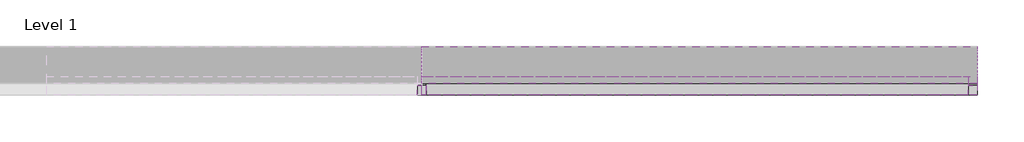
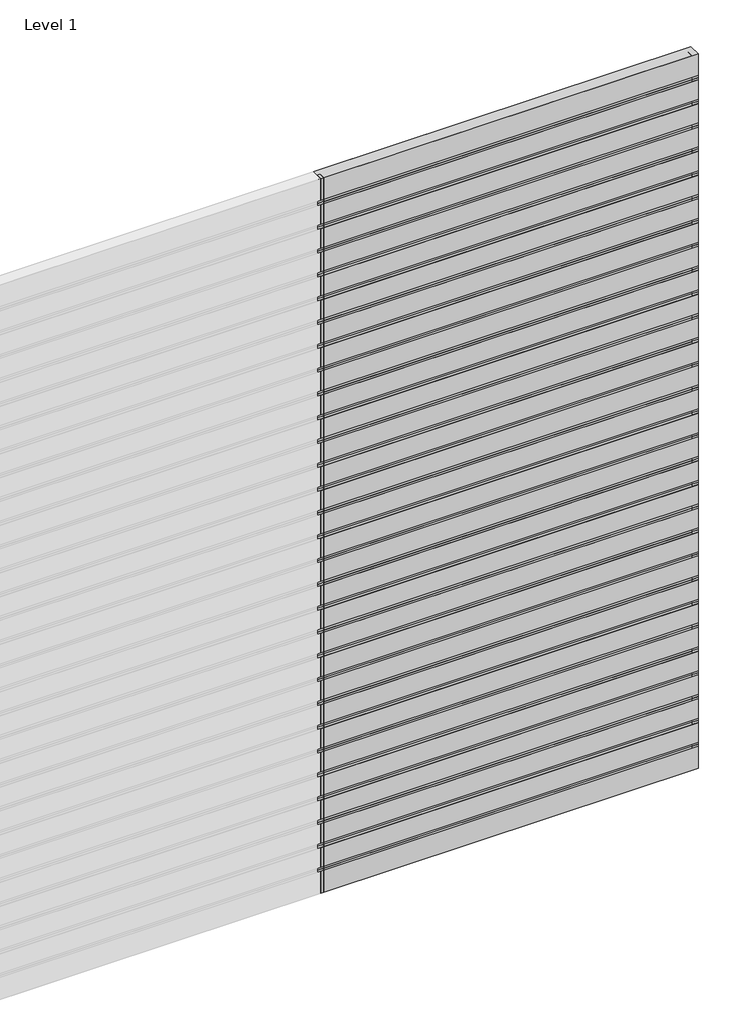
# One storey, part 2 of 2: 74 members, 60 plates.
"""IFC4 building model written with IfcOpenShell, lengths in millimetres."""

from ifc_helpers import new_model, si_unit, origin, place, context, project, spatial, transform, mapped, element, save
from components import rectangular_mullion_139a1767, rectangular_mullion_7d91d70c, rectangular_mullion_614df7cf, empty_system_panel_empty_0b604c90, empty_system_panel_empty_68612530, empty_system_panel_empty_34a2d59f

model = new_model("IFC4")

# Units and contexts
model_context = context("Model", 3, world=origin())
ifc_project = project(units=[si_unit("LENGTHUNIT", "METRE", prefix="MILLI")], contexts=[model_context])

# Site, building, storey
site = spatial("IfcSite", under=ifc_project)
building = spatial("IfcBuilding", under=site)
storey = spatial("IfcBuildingStorey", under=building, Name="Level 1", Elevation=0.0)

# Members
placement = place(None, origin())
rectangular_mullion_shape = rectangular_mullion_139a1767(model_context)
element("IfcMember", 1, ObjectType="Rectangular Mullion : RSen_21_CWM_blade - 200 ellips - 0°_gen_duco projects", at=placement, inside=storey, context=model_context, shape_type="MappedRepresentation", body=[
    mapped(rectangular_mullion_shape, transform((3000.0, 3000.0, 3200.0), x_axis=(0.0, 0.0, 1.0), y_axis=(0.0, 1.0, 0.0), z_axis=(-1.0, 0.0, 0.0))),
])
element("IfcMember", 2, ObjectType="Rectangular Mullion : RSen_21_CWM_blade - 200 ellips - 0°_gen_duco projects", at=placement, inside=storey, context=model_context, shape_type="MappedRepresentation", body=[
    mapped(rectangular_mullion_shape, transform((3000.0, 3000.0, 3400.0), x_axis=(0.0, 0.0, 1.0), y_axis=(0.0, 1.0, 0.0), z_axis=(-1.0, 0.0, 0.0))),
])
element("IfcMember", 3, ObjectType="Rectangular Mullion : RSen_21_CWM_blade - 200 ellips - 0°_gen_duco projects", at=placement, inside=storey, context=model_context, shape_type="MappedRepresentation", body=[
    mapped(rectangular_mullion_shape, transform((3000.0, 3000.0, 3600.0), x_axis=(0.0, 0.0, 1.0), y_axis=(0.0, 1.0, 0.0), z_axis=(-1.0, 0.0, 0.0))),
])
element("IfcMember", 4, ObjectType="Rectangular Mullion : RSen_21_CWM_blade - 200 ellips - 0°_gen_duco projects", at=placement, inside=storey, context=model_context, shape_type="MappedRepresentation", body=[
    mapped(rectangular_mullion_shape, transform((3000.0, 3000.0, 3800.0), x_axis=(0.0, 0.0, 1.0), y_axis=(0.0, 1.0, 0.0), z_axis=(-1.0, 0.0, 0.0))),
])
element("IfcMember", 5, ObjectType="Rectangular Mullion : RSen_21_CWM_blade - 200 ellips - 0°_gen_duco projects", at=placement, inside=storey, context=model_context, shape_type="MappedRepresentation", body=[
    mapped(rectangular_mullion_shape, transform((3000.0, 3000.0, 4000.0), x_axis=(0.0, 0.0, 1.0), y_axis=(0.0, 1.0, 0.0), z_axis=(-1.0, 0.0, 0.0))),
])
element("IfcMember", 6, ObjectType="Rectangular Mullion : RSen_21_CWM_blade - 200 ellips - 0°_gen_duco projects", at=placement, inside=storey, context=model_context, shape_type="MappedRepresentation", body=[
    mapped(rectangular_mullion_shape, transform((3000.0, 3000.0, 4200.0), x_axis=(0.0, 0.0, 1.0), y_axis=(0.0, 1.0, 0.0), z_axis=(-1.0, 0.0, 0.0))),
])
element("IfcMember", 7, ObjectType="Rectangular Mullion : RSen_21_CWM_blade - 200 ellips - 0°_gen_duco projects", at=placement, inside=storey, context=model_context, shape_type="MappedRepresentation", body=[
    mapped(rectangular_mullion_shape, transform((3000.0, 3000.0, 4400.0), x_axis=(0.0, 0.0, 1.0), y_axis=(0.0, 1.0, 0.0), z_axis=(-1.0, 0.0, 0.0))),
])
element("IfcMember", 8, ObjectType="Rectangular Mullion : RSen_21_CWM_blade - 200 ellips - 0°_gen_duco projects", at=placement, inside=storey, context=model_context, shape_type="MappedRepresentation", body=[
    mapped(rectangular_mullion_shape, transform((3000.0, 3000.0, 4600.0), x_axis=(0.0, 0.0, 1.0), y_axis=(0.0, 1.0, 0.0), z_axis=(-1.0, 0.0, 0.0))),
])
element("IfcMember", 9, ObjectType="Rectangular Mullion : RSen_21_CWM_blade - 200 ellips - 0°_gen_duco projects", at=placement, inside=storey, context=model_context, shape_type="MappedRepresentation", body=[
    mapped(rectangular_mullion_shape, transform((3000.0, 3000.0, 4800.0), x_axis=(0.0, 0.0, 1.0), y_axis=(0.0, 1.0, 0.0), z_axis=(-1.0, 0.0, 0.0))),
])
element("IfcMember", 10, ObjectType="Rectangular Mullion : RSen_21_CWM_blade - 200 ellips - 0°_gen_duco projects", at=placement, inside=storey, context=model_context, shape_type="MappedRepresentation", body=[
    mapped(rectangular_mullion_shape, transform((3000.0, 3000.0, 5000.0), x_axis=(0.0, 0.0, 1.0), y_axis=(0.0, 1.0, 0.0), z_axis=(-1.0, 0.0, 0.0))),
])
element("IfcMember", 11, ObjectType="Rectangular Mullion : RSen_21_CWM_blade - 200 ellips - 0°_gen_duco projects", at=placement, inside=storey, context=model_context, shape_type="MappedRepresentation", body=[
    mapped(rectangular_mullion_shape, transform((3000.0, 3000.0, 5200.0), x_axis=(0.0, 0.0, 1.0), y_axis=(0.0, 1.0, 0.0), z_axis=(-1.0, 0.0, 0.0))),
])
element("IfcMember", 12, ObjectType="Rectangular Mullion : RSen_21_CWM_blade - 200 ellips - 0°_gen_duco projects", at=placement, inside=storey, context=model_context, shape_type="MappedRepresentation", body=[
    mapped(rectangular_mullion_shape, transform((3000.0, 3000.0, 5400.0), x_axis=(0.0, 0.0, 1.0), y_axis=(0.0, 1.0, 0.0), z_axis=(-1.0, 0.0, 0.0))),
])
element("IfcMember", 13, ObjectType="Rectangular Mullion : RSen_21_CWM_blade - 200 ellips - 0°_gen_duco projects", at=placement, inside=storey, context=model_context, shape_type="MappedRepresentation", body=[
    mapped(rectangular_mullion_shape, transform((3000.0, 3000.0, 5600.0), x_axis=(0.0, 0.0, 1.0), y_axis=(0.0, 1.0, 0.0), z_axis=(-1.0, 0.0, 0.0))),
])
element("IfcMember", 14, ObjectType="Rectangular Mullion : RSen_21_CWM_blade - 200 ellips - 0°_gen_duco projects", at=placement, inside=storey, context=model_context, shape_type="MappedRepresentation", body=[
    mapped(rectangular_mullion_shape, transform((3000.0, 3000.0, 5800.0), x_axis=(0.0, 0.0, 1.0), y_axis=(0.0, 1.0, 0.0), z_axis=(-1.0, 0.0, 0.0))),
])
rectangular_mullion_2_shape = rectangular_mullion_7d91d70c(model_context)
element("IfcMember", 15, ObjectType="Rectangular Mullion : RSen_21_CWM_support profile 50x50_gen_duco projects", at=placement, inside=storey, context=model_context, shape_type="MappedRepresentation", body=[
    mapped(rectangular_mullion_2_shape, transform((3000.0, 3000.0, 0.0), x_axis=(-1.0, 0.0, 0.0), y_axis=(0.0, 1.0, 0.0), z_axis=(0.0, 0.0, -1.0))),
])
element("IfcMember", 16, ObjectType="Rectangular Mullion : RSen_21_CWM_support profile 50x50_gen_duco projects", at=placement, inside=storey, context=model_context, shape_type="MappedRepresentation", body=[
    mapped(rectangular_mullion_2_shape, transform((3000.0, 3000.0, 200.0), x_axis=(-1.0, 0.0, 0.0), y_axis=(0.0, 1.0, 0.0), z_axis=(0.0, 0.0, -1.0))),
])
element("IfcMember", 17, ObjectType="Rectangular Mullion : RSen_21_CWM_support profile 50x50_gen_duco projects", at=placement, inside=storey, context=model_context, shape_type="MappedRepresentation", body=[
    mapped(rectangular_mullion_2_shape, transform((3000.0, 3000.0, 400.0), x_axis=(-1.0, 0.0, 0.0), y_axis=(0.0, 1.0, 0.0), z_axis=(0.0, 0.0, -1.0))),
])
element("IfcMember", 18, ObjectType="Rectangular Mullion : RSen_21_CWM_support profile 50x50_gen_duco projects", at=placement, inside=storey, context=model_context, shape_type="MappedRepresentation", body=[
    mapped(rectangular_mullion_2_shape, transform((3000.0, 3000.0, 600.0), x_axis=(-1.0, 0.0, 0.0), y_axis=(0.0, 1.0, 0.0), z_axis=(0.0, 0.0, -1.0))),
])
element("IfcMember", 19, ObjectType="Rectangular Mullion : RSen_21_CWM_support profile 50x50_gen_duco projects", at=placement, inside=storey, context=model_context, shape_type="MappedRepresentation", body=[
    mapped(rectangular_mullion_2_shape, transform((3000.0, 3000.0, 800.0), x_axis=(-1.0, 0.0, 0.0), y_axis=(0.0, 1.0, 0.0), z_axis=(0.0, 0.0, -1.0))),
])
element("IfcMember", 20, ObjectType="Rectangular Mullion : RSen_21_CWM_support profile 50x50_gen_duco projects", at=placement, inside=storey, context=model_context, shape_type="MappedRepresentation", body=[
    mapped(rectangular_mullion_2_shape, transform((3000.0, 3000.0, 1000.0), x_axis=(-1.0, 0.0, 0.0), y_axis=(0.0, 1.0, 0.0), z_axis=(0.0, 0.0, -1.0))),
])
element("IfcMember", 21, ObjectType="Rectangular Mullion : RSen_21_CWM_support profile 50x50_gen_duco projects", at=placement, inside=storey, context=model_context, shape_type="MappedRepresentation", body=[
    mapped(rectangular_mullion_2_shape, transform((3000.0, 3000.0, 1200.0), x_axis=(-1.0, 0.0, 0.0), y_axis=(0.0, 1.0, 0.0), z_axis=(0.0, 0.0, -1.0))),
])
element("IfcMember", 22, ObjectType="Rectangular Mullion : RSen_21_CWM_support profile 50x50_gen_duco projects", at=placement, inside=storey, context=model_context, shape_type="MappedRepresentation", body=[
    mapped(rectangular_mullion_2_shape, transform((3000.0, 3000.0, 1400.0), x_axis=(-1.0, 0.0, 0.0), y_axis=(0.0, 1.0, 0.0), z_axis=(0.0, 0.0, -1.0))),
])
element("IfcMember", 23, ObjectType="Rectangular Mullion : RSen_21_CWM_support profile 50x50_gen_duco projects", at=placement, inside=storey, context=model_context, shape_type="MappedRepresentation", body=[
    mapped(rectangular_mullion_2_shape, transform((3000.0, 3000.0, 1600.0), x_axis=(-1.0, 0.0, 0.0), y_axis=(0.0, 1.0, 0.0), z_axis=(0.0, 0.0, -1.0))),
])
element("IfcMember", 24, ObjectType="Rectangular Mullion : RSen_21_CWM_support profile 50x50_gen_duco projects", at=placement, inside=storey, context=model_context, shape_type="MappedRepresentation", body=[
    mapped(rectangular_mullion_2_shape, transform((3000.0, 3000.0, 1800.0), x_axis=(-1.0, 0.0, 0.0), y_axis=(0.0, 1.0, 0.0), z_axis=(0.0, 0.0, -1.0))),
])
element("IfcMember", 25, ObjectType="Rectangular Mullion : RSen_21_CWM_support profile 50x50_gen_duco projects", at=placement, inside=storey, context=model_context, shape_type="MappedRepresentation", body=[
    mapped(rectangular_mullion_2_shape, transform((3000.0, 3000.0, 2000.0), x_axis=(-1.0, 0.0, 0.0), y_axis=(0.0, 1.0, 0.0), z_axis=(0.0, 0.0, -1.0))),
])
element("IfcMember", 26, ObjectType="Rectangular Mullion : RSen_21_CWM_support profile 50x50_gen_duco projects", at=placement, inside=storey, context=model_context, shape_type="MappedRepresentation", body=[
    mapped(rectangular_mullion_2_shape, transform((3000.0, 3000.0, 2200.0), x_axis=(-1.0, 0.0, 0.0), y_axis=(0.0, 1.0, 0.0), z_axis=(0.0, 0.0, -1.0))),
])
element("IfcMember", 27, ObjectType="Rectangular Mullion : RSen_21_CWM_support profile 50x50_gen_duco projects", at=placement, inside=storey, context=model_context, shape_type="MappedRepresentation", body=[
    mapped(rectangular_mullion_2_shape, transform((3000.0, 3000.0, 2400.0), x_axis=(-1.0, 0.0, 0.0), y_axis=(0.0, 1.0, 0.0), z_axis=(0.0, 0.0, -1.0))),
])
element("IfcMember", 28, ObjectType="Rectangular Mullion : RSen_21_CWM_support profile 50x50_gen_duco projects", at=placement, inside=storey, context=model_context, shape_type="MappedRepresentation", body=[
    mapped(rectangular_mullion_2_shape, transform((3000.0, 3000.0, 2600.0), x_axis=(-1.0, 0.0, 0.0), y_axis=(0.0, 1.0, 0.0), z_axis=(0.0, 0.0, -1.0))),
])
element("IfcMember", 29, ObjectType="Rectangular Mullion : RSen_21_CWM_support profile 50x50_gen_duco projects", at=placement, inside=storey, context=model_context, shape_type="MappedRepresentation", body=[
    mapped(rectangular_mullion_2_shape, transform((3000.0, 3000.0, 2800.0), x_axis=(-1.0, 0.0, 0.0), y_axis=(0.0, 1.0, 0.0), z_axis=(0.0, 0.0, -1.0))),
])
element("IfcMember", 30, ObjectType="Rectangular Mullion : RSen_21_CWM_support profile 50x50_gen_duco projects", at=placement, inside=storey, context=model_context, shape_type="MappedRepresentation", body=[
    mapped(rectangular_mullion_2_shape, transform((3000.0, 3000.0, 3000.0), x_axis=(-1.0, 0.0, 0.0), y_axis=(0.0, 1.0, 0.0), z_axis=(0.0, 0.0, -1.0))),
])
element("IfcMember", 31, ObjectType="Rectangular Mullion : RSen_21_CWM_support profile 50x50_gen_duco projects", at=placement, inside=storey, context=model_context, shape_type="MappedRepresentation", body=[
    mapped(rectangular_mullion_2_shape, transform((3000.0, 3000.0, 3200.0), x_axis=(-1.0, 0.0, 0.0), y_axis=(0.0, 1.0, 0.0), z_axis=(0.0, 0.0, -1.0))),
])
element("IfcMember", 32, ObjectType="Rectangular Mullion : RSen_21_CWM_support profile 50x50_gen_duco projects", at=placement, inside=storey, context=model_context, shape_type="MappedRepresentation", body=[
    mapped(rectangular_mullion_2_shape, transform((3000.0, 3000.0, 3400.0), x_axis=(-1.0, 0.0, 0.0), y_axis=(0.0, 1.0, 0.0), z_axis=(0.0, 0.0, -1.0))),
])
element("IfcMember", 33, ObjectType="Rectangular Mullion : RSen_21_CWM_support profile 50x50_gen_duco projects", at=placement, inside=storey, context=model_context, shape_type="MappedRepresentation", body=[
    mapped(rectangular_mullion_2_shape, transform((3000.0, 3000.0, 3600.0), x_axis=(-1.0, 0.0, 0.0), y_axis=(0.0, 1.0, 0.0), z_axis=(0.0, 0.0, -1.0))),
])
element("IfcMember", 34, ObjectType="Rectangular Mullion : RSen_21_CWM_support profile 50x50_gen_duco projects", at=placement, inside=storey, context=model_context, shape_type="MappedRepresentation", body=[
    mapped(rectangular_mullion_2_shape, transform((3000.0, 3000.0, 3800.0), x_axis=(-1.0, 0.0, 0.0), y_axis=(0.0, 1.0, 0.0), z_axis=(0.0, 0.0, -1.0))),
])
element("IfcMember", 35, ObjectType="Rectangular Mullion : RSen_21_CWM_support profile 50x50_gen_duco projects", at=placement, inside=storey, context=model_context, shape_type="MappedRepresentation", body=[
    mapped(rectangular_mullion_2_shape, transform((3000.0, 3000.0, 4000.0), x_axis=(-1.0, 0.0, 0.0), y_axis=(0.0, 1.0, 0.0), z_axis=(0.0, 0.0, -1.0))),
])
element("IfcMember", 36, ObjectType="Rectangular Mullion : RSen_21_CWM_support profile 50x50_gen_duco projects", at=placement, inside=storey, context=model_context, shape_type="MappedRepresentation", body=[
    mapped(rectangular_mullion_2_shape, transform((3000.0, 3000.0, 4200.0), x_axis=(-1.0, 0.0, 0.0), y_axis=(0.0, 1.0, 0.0), z_axis=(0.0, 0.0, -1.0))),
])
element("IfcMember", 37, ObjectType="Rectangular Mullion : RSen_21_CWM_support profile 50x50_gen_duco projects", at=placement, inside=storey, context=model_context, shape_type="MappedRepresentation", body=[
    mapped(rectangular_mullion_2_shape, transform((3000.0, 3000.0, 4400.0), x_axis=(-1.0, 0.0, 0.0), y_axis=(0.0, 1.0, 0.0), z_axis=(0.0, 0.0, -1.0))),
])
element("IfcMember", 38, ObjectType="Rectangular Mullion : RSen_21_CWM_support profile 50x50_gen_duco projects", at=placement, inside=storey, context=model_context, shape_type="MappedRepresentation", body=[
    mapped(rectangular_mullion_2_shape, transform((3000.0, 3000.0, 4600.0), x_axis=(-1.0, 0.0, 0.0), y_axis=(0.0, 1.0, 0.0), z_axis=(0.0, 0.0, -1.0))),
])
element("IfcMember", 39, ObjectType="Rectangular Mullion : RSen_21_CWM_support profile 50x50_gen_duco projects", at=placement, inside=storey, context=model_context, shape_type="MappedRepresentation", body=[
    mapped(rectangular_mullion_2_shape, transform((3000.0, 3000.0, 4800.0), x_axis=(-1.0, 0.0, 0.0), y_axis=(0.0, 1.0, 0.0), z_axis=(0.0, 0.0, -1.0))),
])
element("IfcMember", 40, ObjectType="Rectangular Mullion : RSen_21_CWM_support profile 50x50_gen_duco projects", at=placement, inside=storey, context=model_context, shape_type="MappedRepresentation", body=[
    mapped(rectangular_mullion_2_shape, transform((3000.0, 3000.0, 5000.0), x_axis=(-1.0, 0.0, 0.0), y_axis=(0.0, 1.0, 0.0), z_axis=(0.0, 0.0, -1.0))),
])
element("IfcMember", 41, ObjectType="Rectangular Mullion : RSen_21_CWM_support profile 50x50_gen_duco projects", at=placement, inside=storey, context=model_context, shape_type="MappedRepresentation", body=[
    mapped(rectangular_mullion_2_shape, transform((3000.0, 3000.0, 5200.0), x_axis=(-1.0, 0.0, 0.0), y_axis=(0.0, 1.0, 0.0), z_axis=(0.0, 0.0, -1.0))),
])
element("IfcMember", 42, ObjectType="Rectangular Mullion : RSen_21_CWM_support profile 50x50_gen_duco projects", at=placement, inside=storey, context=model_context, shape_type="MappedRepresentation", body=[
    mapped(rectangular_mullion_2_shape, transform((3000.0, 3000.0, 5400.0), x_axis=(-1.0, 0.0, 0.0), y_axis=(0.0, 1.0, 0.0), z_axis=(0.0, 0.0, -1.0))),
])
element("IfcMember", 43, ObjectType="Rectangular Mullion : RSen_21_CWM_support profile 50x50_gen_duco projects", at=placement, inside=storey, context=model_context, shape_type="MappedRepresentation", body=[
    mapped(rectangular_mullion_2_shape, transform((3000.0, 3000.0, 5600.0), x_axis=(-1.0, 0.0, 0.0), y_axis=(0.0, 1.0, 0.0), z_axis=(0.0, 0.0, -1.0))),
])
element("IfcMember", 44, ObjectType="Rectangular Mullion : RSen_21_CWM_support profile 50x50_gen_duco projects", at=placement, inside=storey, context=model_context, shape_type="MappedRepresentation", body=[
    mapped(rectangular_mullion_2_shape, transform((3000.0, 3000.0, 5800.0), x_axis=(-1.0, 0.0, 0.0), y_axis=(0.0, 1.0, 0.0), z_axis=(0.0, 0.0, -1.0))),
])
rectangular_mullion_3_shape = rectangular_mullion_614df7cf(model_context)
element("IfcMember", 45, ObjectType="Rectangular Mullion : RSen_21_CWM_support profile 50x50 - right_gen_duco projects", at=placement, inside=storey, context=model_context, shape_type="MappedRepresentation", body=[
    mapped(rectangular_mullion_3_shape, transform((6000.0, 3000.0, 6000.0), x_axis=(1.0, 0.0, 0.0), y_axis=(0.0, 1.0, 0.0), z_axis=(0.0, 0.0, 1.0))),
])
element("IfcMember", 46, ObjectType="Rectangular Mullion : RSen_21_CWM_support profile 50x50 - right_gen_duco projects", at=placement, inside=storey, context=model_context, shape_type="MappedRepresentation", body=[
    mapped(rectangular_mullion_3_shape, transform((6000.0, 3000.0, 200.0), x_axis=(1.0, 0.0, 0.0), y_axis=(0.0, 1.0, 0.0), z_axis=(0.0, 0.0, 1.0))),
])
element("IfcMember", 47, ObjectType="Rectangular Mullion : RSen_21_CWM_support profile 50x50 - right_gen_duco projects", at=placement, inside=storey, context=model_context, shape_type="MappedRepresentation", body=[
    mapped(rectangular_mullion_3_shape, transform((6000.0, 3000.0, 400.0), x_axis=(1.0, 0.0, 0.0), y_axis=(0.0, 1.0, 0.0), z_axis=(0.0, 0.0, 1.0))),
])
element("IfcMember", 48, ObjectType="Rectangular Mullion : RSen_21_CWM_support profile 50x50 - right_gen_duco projects", at=placement, inside=storey, context=model_context, shape_type="MappedRepresentation", body=[
    mapped(rectangular_mullion_3_shape, transform((6000.0, 3000.0, 600.0), x_axis=(1.0, 0.0, 0.0), y_axis=(0.0, 1.0, 0.0), z_axis=(0.0, 0.0, 1.0))),
])
element("IfcMember", 49, ObjectType="Rectangular Mullion : RSen_21_CWM_support profile 50x50 - right_gen_duco projects", at=placement, inside=storey, context=model_context, shape_type="MappedRepresentation", body=[
    mapped(rectangular_mullion_3_shape, transform((6000.0, 3000.0, 800.0), x_axis=(1.0, 0.0, 0.0), y_axis=(0.0, 1.0, 0.0), z_axis=(0.0, 0.0, 1.0))),
])
element("IfcMember", 50, ObjectType="Rectangular Mullion : RSen_21_CWM_support profile 50x50 - right_gen_duco projects", at=placement, inside=storey, context=model_context, shape_type="MappedRepresentation", body=[
    mapped(rectangular_mullion_3_shape, transform((6000.0, 3000.0, 1000.0), x_axis=(1.0, 0.0, 0.0), y_axis=(0.0, 1.0, 0.0), z_axis=(0.0, 0.0, 1.0))),
])
element("IfcMember", 51, ObjectType="Rectangular Mullion : RSen_21_CWM_support profile 50x50 - right_gen_duco projects", at=placement, inside=storey, context=model_context, shape_type="MappedRepresentation", body=[
    mapped(rectangular_mullion_3_shape, transform((6000.0, 3000.0, 1200.0), x_axis=(1.0, 0.0, 0.0), y_axis=(0.0, 1.0, 0.0), z_axis=(0.0, 0.0, 1.0))),
])
element("IfcMember", 52, ObjectType="Rectangular Mullion : RSen_21_CWM_support profile 50x50 - right_gen_duco projects", at=placement, inside=storey, context=model_context, shape_type="MappedRepresentation", body=[
    mapped(rectangular_mullion_3_shape, transform((6000.0, 3000.0, 1400.0), x_axis=(1.0, 0.0, 0.0), y_axis=(0.0, 1.0, 0.0), z_axis=(0.0, 0.0, 1.0))),
])
element("IfcMember", 53, ObjectType="Rectangular Mullion : RSen_21_CWM_support profile 50x50 - right_gen_duco projects", at=placement, inside=storey, context=model_context, shape_type="MappedRepresentation", body=[
    mapped(rectangular_mullion_3_shape, transform((6000.0, 3000.0, 1600.0), x_axis=(1.0, 0.0, 0.0), y_axis=(0.0, 1.0, 0.0), z_axis=(0.0, 0.0, 1.0))),
])
element("IfcMember", 54, ObjectType="Rectangular Mullion : RSen_21_CWM_support profile 50x50 - right_gen_duco projects", at=placement, inside=storey, context=model_context, shape_type="MappedRepresentation", body=[
    mapped(rectangular_mullion_3_shape, transform((6000.0, 3000.0, 1800.0), x_axis=(1.0, 0.0, 0.0), y_axis=(0.0, 1.0, 0.0), z_axis=(0.0, 0.0, 1.0))),
])
element("IfcMember", 55, ObjectType="Rectangular Mullion : RSen_21_CWM_support profile 50x50 - right_gen_duco projects", at=placement, inside=storey, context=model_context, shape_type="MappedRepresentation", body=[
    mapped(rectangular_mullion_3_shape, transform((6000.0, 3000.0, 2000.0), x_axis=(1.0, 0.0, 0.0), y_axis=(0.0, 1.0, 0.0), z_axis=(0.0, 0.0, 1.0))),
])
element("IfcMember", 56, ObjectType="Rectangular Mullion : RSen_21_CWM_support profile 50x50 - right_gen_duco projects", at=placement, inside=storey, context=model_context, shape_type="MappedRepresentation", body=[
    mapped(rectangular_mullion_3_shape, transform((6000.0, 3000.0, 2200.0), x_axis=(1.0, 0.0, 0.0), y_axis=(0.0, 1.0, 0.0), z_axis=(0.0, 0.0, 1.0))),
])
element("IfcMember", 57, ObjectType="Rectangular Mullion : RSen_21_CWM_support profile 50x50 - right_gen_duco projects", at=placement, inside=storey, context=model_context, shape_type="MappedRepresentation", body=[
    mapped(rectangular_mullion_3_shape, transform((6000.0, 3000.0, 2400.0), x_axis=(1.0, 0.0, 0.0), y_axis=(0.0, 1.0, 0.0), z_axis=(0.0, 0.0, 1.0))),
])
element("IfcMember", 58, ObjectType="Rectangular Mullion : RSen_21_CWM_support profile 50x50 - right_gen_duco projects", at=placement, inside=storey, context=model_context, shape_type="MappedRepresentation", body=[
    mapped(rectangular_mullion_3_shape, transform((6000.0, 3000.0, 2600.0), x_axis=(1.0, 0.0, 0.0), y_axis=(0.0, 1.0, 0.0), z_axis=(0.0, 0.0, 1.0))),
])
element("IfcMember", 59, ObjectType="Rectangular Mullion : RSen_21_CWM_support profile 50x50 - right_gen_duco projects", at=placement, inside=storey, context=model_context, shape_type="MappedRepresentation", body=[
    mapped(rectangular_mullion_3_shape, transform((6000.0, 3000.0, 2800.0), x_axis=(1.0, 0.0, 0.0), y_axis=(0.0, 1.0, 0.0), z_axis=(0.0, 0.0, 1.0))),
])
element("IfcMember", 60, ObjectType="Rectangular Mullion : RSen_21_CWM_support profile 50x50 - right_gen_duco projects", at=placement, inside=storey, context=model_context, shape_type="MappedRepresentation", body=[
    mapped(rectangular_mullion_3_shape, transform((6000.0, 3000.0, 3000.0), x_axis=(1.0, 0.0, 0.0), y_axis=(0.0, 1.0, 0.0), z_axis=(0.0, 0.0, 1.0))),
])
element("IfcMember", 61, ObjectType="Rectangular Mullion : RSen_21_CWM_support profile 50x50 - right_gen_duco projects", at=placement, inside=storey, context=model_context, shape_type="MappedRepresentation", body=[
    mapped(rectangular_mullion_3_shape, transform((6000.0, 3000.0, 3200.0), x_axis=(1.0, 0.0, 0.0), y_axis=(0.0, 1.0, 0.0), z_axis=(0.0, 0.0, 1.0))),
])
element("IfcMember", 62, ObjectType="Rectangular Mullion : RSen_21_CWM_support profile 50x50 - right_gen_duco projects", at=placement, inside=storey, context=model_context, shape_type="MappedRepresentation", body=[
    mapped(rectangular_mullion_3_shape, transform((6000.0, 3000.0, 3400.0), x_axis=(1.0, 0.0, 0.0), y_axis=(0.0, 1.0, 0.0), z_axis=(0.0, 0.0, 1.0))),
])
element("IfcMember", 63, ObjectType="Rectangular Mullion : RSen_21_CWM_support profile 50x50 - right_gen_duco projects", at=placement, inside=storey, context=model_context, shape_type="MappedRepresentation", body=[
    mapped(rectangular_mullion_3_shape, transform((6000.0, 3000.0, 3600.0), x_axis=(1.0, 0.0, 0.0), y_axis=(0.0, 1.0, 0.0), z_axis=(0.0, 0.0, 1.0))),
])
element("IfcMember", 64, ObjectType="Rectangular Mullion : RSen_21_CWM_support profile 50x50 - right_gen_duco projects", at=placement, inside=storey, context=model_context, shape_type="MappedRepresentation", body=[
    mapped(rectangular_mullion_3_shape, transform((6000.0, 3000.0, 3800.0), x_axis=(1.0, 0.0, 0.0), y_axis=(0.0, 1.0, 0.0), z_axis=(0.0, 0.0, 1.0))),
])
element("IfcMember", 65, ObjectType="Rectangular Mullion : RSen_21_CWM_support profile 50x50 - right_gen_duco projects", at=placement, inside=storey, context=model_context, shape_type="MappedRepresentation", body=[
    mapped(rectangular_mullion_3_shape, transform((6000.0, 3000.0, 4000.0), x_axis=(1.0, 0.0, 0.0), y_axis=(0.0, 1.0, 0.0), z_axis=(0.0, 0.0, 1.0))),
])
element("IfcMember", 66, ObjectType="Rectangular Mullion : RSen_21_CWM_support profile 50x50 - right_gen_duco projects", at=placement, inside=storey, context=model_context, shape_type="MappedRepresentation", body=[
    mapped(rectangular_mullion_3_shape, transform((6000.0, 3000.0, 4200.0), x_axis=(1.0, 0.0, 0.0), y_axis=(0.0, 1.0, 0.0), z_axis=(0.0, 0.0, 1.0))),
])
element("IfcMember", 67, ObjectType="Rectangular Mullion : RSen_21_CWM_support profile 50x50 - right_gen_duco projects", at=placement, inside=storey, context=model_context, shape_type="MappedRepresentation", body=[
    mapped(rectangular_mullion_3_shape, transform((6000.0, 3000.0, 4400.0), x_axis=(1.0, 0.0, 0.0), y_axis=(0.0, 1.0, 0.0), z_axis=(0.0, 0.0, 1.0))),
])
element("IfcMember", 68, ObjectType="Rectangular Mullion : RSen_21_CWM_support profile 50x50 - right_gen_duco projects", at=placement, inside=storey, context=model_context, shape_type="MappedRepresentation", body=[
    mapped(rectangular_mullion_3_shape, transform((6000.0, 3000.0, 4600.0), x_axis=(1.0, 0.0, 0.0), y_axis=(0.0, 1.0, 0.0), z_axis=(0.0, 0.0, 1.0))),
])
element("IfcMember", 69, ObjectType="Rectangular Mullion : RSen_21_CWM_support profile 50x50 - right_gen_duco projects", at=placement, inside=storey, context=model_context, shape_type="MappedRepresentation", body=[
    mapped(rectangular_mullion_3_shape, transform((6000.0, 3000.0, 4800.0), x_axis=(1.0, 0.0, 0.0), y_axis=(0.0, 1.0, 0.0), z_axis=(0.0, 0.0, 1.0))),
])
element("IfcMember", 70, ObjectType="Rectangular Mullion : RSen_21_CWM_support profile 50x50 - right_gen_duco projects", at=placement, inside=storey, context=model_context, shape_type="MappedRepresentation", body=[
    mapped(rectangular_mullion_3_shape, transform((6000.0, 3000.0, 5000.0), x_axis=(1.0, 0.0, 0.0), y_axis=(0.0, 1.0, 0.0), z_axis=(0.0, 0.0, 1.0))),
])
element("IfcMember", 71, ObjectType="Rectangular Mullion : RSen_21_CWM_support profile 50x50 - right_gen_duco projects", at=placement, inside=storey, context=model_context, shape_type="MappedRepresentation", body=[
    mapped(rectangular_mullion_3_shape, transform((6000.0, 3000.0, 5200.0), x_axis=(1.0, 0.0, 0.0), y_axis=(0.0, 1.0, 0.0), z_axis=(0.0, 0.0, 1.0))),
])
element("IfcMember", 72, ObjectType="Rectangular Mullion : RSen_21_CWM_support profile 50x50 - right_gen_duco projects", at=placement, inside=storey, context=model_context, shape_type="MappedRepresentation", body=[
    mapped(rectangular_mullion_3_shape, transform((6000.0, 3000.0, 5400.0), x_axis=(1.0, 0.0, 0.0), y_axis=(0.0, 1.0, 0.0), z_axis=(0.0, 0.0, 1.0))),
])
element("IfcMember", 73, ObjectType="Rectangular Mullion : RSen_21_CWM_support profile 50x50 - right_gen_duco projects", at=placement, inside=storey, context=model_context, shape_type="MappedRepresentation", body=[
    mapped(rectangular_mullion_3_shape, transform((6000.0, 3000.0, 5600.0), x_axis=(1.0, 0.0, 0.0), y_axis=(0.0, 1.0, 0.0), z_axis=(0.0, 0.0, 1.0))),
])
element("IfcMember", 74, ObjectType="Rectangular Mullion : RSen_21_CWM_support profile 50x50 - right_gen_duco projects", at=placement, inside=storey, context=model_context, shape_type="MappedRepresentation", body=[
    mapped(rectangular_mullion_3_shape, transform((6000.0, 3000.0, 5800.0), x_axis=(1.0, 0.0, 0.0), y_axis=(0.0, 1.0, 0.0), z_axis=(0.0, 0.0, 1.0))),
])

# Plates
empty_system_panel_empty_shape = empty_system_panel_empty_0b604c90(model_context)
element("IfcPlate", 75, ObjectType="Empty System Panel : Empty", at=placement, inside=storey, context=model_context, shape_type="MappedRepresentation", body=[
    mapped(empty_system_panel_empty_shape, transform((4500.0, 3000.0, 0.0), x_axis=(-1.0, 0.0, 0.0), y_axis=(0.0, -1.0, 0.0), z_axis=(0.0, 0.0, 1.0))),
])
element("IfcPlate", 76, ObjectType="Empty System Panel : Empty", at=placement, inside=storey, context=model_context, shape_type="MappedRepresentation", body=[
    mapped(empty_system_panel_empty_shape, transform((4500.0, 3000.0, 5818.5), x_axis=(-1.0, 0.0, 0.0), y_axis=(0.0, -1.0, 0.0), z_axis=(0.0, 0.0, 1.0))),
])
empty_system_panel_empty_2_shape = empty_system_panel_empty_68612530(model_context)
element("IfcPlate", 77, ObjectType="Empty System Panel : Empty", at=placement, inside=storey, context=model_context, shape_type="MappedRepresentation", body=[
    mapped(empty_system_panel_empty_2_shape, transform((4500.0, 3000.0, 218.5), x_axis=(-1.0, 0.0, 0.0), y_axis=(0.0, -1.0, 0.0), z_axis=(0.0, 0.0, 1.0))),
])
element("IfcPlate", 78, ObjectType="Empty System Panel : Empty", at=placement, inside=storey, context=model_context, shape_type="MappedRepresentation", body=[
    mapped(empty_system_panel_empty_2_shape, transform((4500.0, 3000.0, 418.5), x_axis=(-1.0, 0.0, 0.0), y_axis=(0.0, -1.0, 0.0), z_axis=(0.0, 0.0, 1.0))),
])
element("IfcPlate", 79, ObjectType="Empty System Panel : Empty", at=placement, inside=storey, context=model_context, shape_type="MappedRepresentation", body=[
    mapped(empty_system_panel_empty_2_shape, transform((4500.0, 3000.0, 618.5), x_axis=(-1.0, 0.0, 0.0), y_axis=(0.0, -1.0, 0.0), z_axis=(0.0, 0.0, 1.0))),
])
element("IfcPlate", 80, ObjectType="Empty System Panel : Empty", at=placement, inside=storey, context=model_context, shape_type="MappedRepresentation", body=[
    mapped(empty_system_panel_empty_2_shape, transform((4500.0, 3000.0, 818.5), x_axis=(-1.0, 0.0, 0.0), y_axis=(0.0, -1.0, 0.0), z_axis=(0.0, 0.0, 1.0))),
])
element("IfcPlate", 81, ObjectType="Empty System Panel : Empty", at=placement, inside=storey, context=model_context, shape_type="MappedRepresentation", body=[
    mapped(empty_system_panel_empty_2_shape, transform((4500.0, 3000.0, 1018.5), x_axis=(-1.0, 0.0, 0.0), y_axis=(0.0, -1.0, 0.0), z_axis=(0.0, 0.0, 1.0))),
])
element("IfcPlate", 82, ObjectType="Empty System Panel : Empty", at=placement, inside=storey, context=model_context, shape_type="MappedRepresentation", body=[
    mapped(empty_system_panel_empty_2_shape, transform((4500.0, 3000.0, 1218.5), x_axis=(-1.0, 0.0, 0.0), y_axis=(0.0, -1.0, 0.0), z_axis=(0.0, 0.0, 1.0))),
])
element("IfcPlate", 83, ObjectType="Empty System Panel : Empty", at=placement, inside=storey, context=model_context, shape_type="MappedRepresentation", body=[
    mapped(empty_system_panel_empty_2_shape, transform((4500.0, 3000.0, 1418.5), x_axis=(-1.0, 0.0, 0.0), y_axis=(0.0, -1.0, 0.0), z_axis=(0.0, 0.0, 1.0))),
])
element("IfcPlate", 84, ObjectType="Empty System Panel : Empty", at=placement, inside=storey, context=model_context, shape_type="MappedRepresentation", body=[
    mapped(empty_system_panel_empty_2_shape, transform((4500.0, 3000.0, 1618.5), x_axis=(-1.0, 0.0, 0.0), y_axis=(0.0, -1.0, 0.0), z_axis=(0.0, 0.0, 1.0))),
])
element("IfcPlate", 85, ObjectType="Empty System Panel : Empty", at=placement, inside=storey, context=model_context, shape_type="MappedRepresentation", body=[
    mapped(empty_system_panel_empty_2_shape, transform((4500.0, 3000.0, 1818.5), x_axis=(-1.0, 0.0, 0.0), y_axis=(0.0, -1.0, 0.0), z_axis=(0.0, 0.0, 1.0))),
])
element("IfcPlate", 86, ObjectType="Empty System Panel : Empty", at=placement, inside=storey, context=model_context, shape_type="MappedRepresentation", body=[
    mapped(empty_system_panel_empty_2_shape, transform((4500.0, 3000.0, 2018.5), x_axis=(-1.0, 0.0, 0.0), y_axis=(0.0, -1.0, 0.0), z_axis=(0.0, 0.0, 1.0))),
])
element("IfcPlate", 87, ObjectType="Empty System Panel : Empty", at=placement, inside=storey, context=model_context, shape_type="MappedRepresentation", body=[
    mapped(empty_system_panel_empty_2_shape, transform((4500.0, 3000.0, 2218.5), x_axis=(-1.0, 0.0, 0.0), y_axis=(0.0, -1.0, 0.0), z_axis=(0.0, 0.0, 1.0))),
])
element("IfcPlate", 88, ObjectType="Empty System Panel : Empty", at=placement, inside=storey, context=model_context, shape_type="MappedRepresentation", body=[
    mapped(empty_system_panel_empty_2_shape, transform((4500.0, 3000.0, 2418.5), x_axis=(-1.0, 0.0, 0.0), y_axis=(0.0, -1.0, 0.0), z_axis=(0.0, 0.0, 1.0))),
])
element("IfcPlate", 89, ObjectType="Empty System Panel : Empty", at=placement, inside=storey, context=model_context, shape_type="MappedRepresentation", body=[
    mapped(empty_system_panel_empty_2_shape, transform((4500.0, 3000.0, 2618.5), x_axis=(-1.0, 0.0, 0.0), y_axis=(0.0, -1.0, 0.0), z_axis=(0.0, 0.0, 1.0))),
])
element("IfcPlate", 90, ObjectType="Empty System Panel : Empty", at=placement, inside=storey, context=model_context, shape_type="MappedRepresentation", body=[
    mapped(empty_system_panel_empty_2_shape, transform((4500.0, 3000.0, 2818.5), x_axis=(-1.0, 0.0, 0.0), y_axis=(0.0, -1.0, 0.0), z_axis=(0.0, 0.0, 1.0))),
])
element("IfcPlate", 91, ObjectType="Empty System Panel : Empty", at=placement, inside=storey, context=model_context, shape_type="MappedRepresentation", body=[
    mapped(empty_system_panel_empty_2_shape, transform((4500.0, 3000.0, 3018.5), x_axis=(-1.0, 0.0, 0.0), y_axis=(0.0, -1.0, 0.0), z_axis=(0.0, 0.0, 1.0))),
])
element("IfcPlate", 92, ObjectType="Empty System Panel : Empty", at=placement, inside=storey, context=model_context, shape_type="MappedRepresentation", body=[
    mapped(empty_system_panel_empty_2_shape, transform((4500.0, 3000.0, 3218.5), x_axis=(-1.0, 0.0, 0.0), y_axis=(0.0, -1.0, 0.0), z_axis=(0.0, 0.0, 1.0))),
])
element("IfcPlate", 93, ObjectType="Empty System Panel : Empty", at=placement, inside=storey, context=model_context, shape_type="MappedRepresentation", body=[
    mapped(empty_system_panel_empty_2_shape, transform((4500.0, 3000.0, 3418.5), x_axis=(-1.0, 0.0, 0.0), y_axis=(0.0, -1.0, 0.0), z_axis=(0.0, 0.0, 1.0))),
])
element("IfcPlate", 94, ObjectType="Empty System Panel : Empty", at=placement, inside=storey, context=model_context, shape_type="MappedRepresentation", body=[
    mapped(empty_system_panel_empty_2_shape, transform((4500.0, 3000.0, 3618.5), x_axis=(-1.0, 0.0, 0.0), y_axis=(0.0, -1.0, 0.0), z_axis=(0.0, 0.0, 1.0))),
])
element("IfcPlate", 95, ObjectType="Empty System Panel : Empty", at=placement, inside=storey, context=model_context, shape_type="MappedRepresentation", body=[
    mapped(empty_system_panel_empty_2_shape, transform((4500.0, 3000.0, 3818.5), x_axis=(-1.0, 0.0, 0.0), y_axis=(0.0, -1.0, 0.0), z_axis=(0.0, 0.0, 1.0))),
])
element("IfcPlate", 96, ObjectType="Empty System Panel : Empty", at=placement, inside=storey, context=model_context, shape_type="MappedRepresentation", body=[
    mapped(empty_system_panel_empty_2_shape, transform((4500.0, 3000.0, 4018.5), x_axis=(-1.0, 0.0, 0.0), y_axis=(0.0, -1.0, 0.0), z_axis=(0.0, 0.0, 1.0))),
])
element("IfcPlate", 97, ObjectType="Empty System Panel : Empty", at=placement, inside=storey, context=model_context, shape_type="MappedRepresentation", body=[
    mapped(empty_system_panel_empty_2_shape, transform((4500.0, 3000.0, 4218.5), x_axis=(-1.0, 0.0, 0.0), y_axis=(0.0, -1.0, 0.0), z_axis=(0.0, 0.0, 1.0))),
])
element("IfcPlate", 98, ObjectType="Empty System Panel : Empty", at=placement, inside=storey, context=model_context, shape_type="MappedRepresentation", body=[
    mapped(empty_system_panel_empty_2_shape, transform((4500.0, 3000.0, 4418.5), x_axis=(-1.0, 0.0, 0.0), y_axis=(0.0, -1.0, 0.0), z_axis=(0.0, 0.0, 1.0))),
])
element("IfcPlate", 99, ObjectType="Empty System Panel : Empty", at=placement, inside=storey, context=model_context, shape_type="MappedRepresentation", body=[
    mapped(empty_system_panel_empty_2_shape, transform((4500.0, 3000.0, 4618.5), x_axis=(-1.0, 0.0, 0.0), y_axis=(0.0, -1.0, 0.0), z_axis=(0.0, 0.0, 1.0))),
])
element("IfcPlate", 100, ObjectType="Empty System Panel : Empty", at=placement, inside=storey, context=model_context, shape_type="MappedRepresentation", body=[
    mapped(empty_system_panel_empty_2_shape, transform((4500.0, 3000.0, 4818.5), x_axis=(-1.0, 0.0, 0.0), y_axis=(0.0, -1.0, 0.0), z_axis=(0.0, 0.0, 1.0))),
])
element("IfcPlate", 101, ObjectType="Empty System Panel : Empty", at=placement, inside=storey, context=model_context, shape_type="MappedRepresentation", body=[
    mapped(empty_system_panel_empty_2_shape, transform((4500.0, 3000.0, 5018.5), x_axis=(-1.0, 0.0, 0.0), y_axis=(0.0, -1.0, 0.0), z_axis=(0.0, 0.0, 1.0))),
])
element("IfcPlate", 102, ObjectType="Empty System Panel : Empty", at=placement, inside=storey, context=model_context, shape_type="MappedRepresentation", body=[
    mapped(empty_system_panel_empty_2_shape, transform((4500.0, 3000.0, 5218.5), x_axis=(-1.0, 0.0, 0.0), y_axis=(0.0, -1.0, 0.0), z_axis=(0.0, 0.0, 1.0))),
])
element("IfcPlate", 103, ObjectType="Empty System Panel : Empty", at=placement, inside=storey, context=model_context, shape_type="MappedRepresentation", body=[
    mapped(empty_system_panel_empty_2_shape, transform((4500.0, 3000.0, 5418.5), x_axis=(-1.0, 0.0, 0.0), y_axis=(0.0, -1.0, 0.0), z_axis=(0.0, 0.0, 1.0))),
])
element("IfcPlate", 104, ObjectType="Empty System Panel : Empty", at=placement, inside=storey, context=model_context, shape_type="MappedRepresentation", body=[
    mapped(empty_system_panel_empty_2_shape, transform((4500.0, 3000.0, 5618.5), x_axis=(-1.0, 0.0, 0.0), y_axis=(0.0, -1.0, 0.0), z_axis=(0.0, 0.0, 1.0))),
])
empty_system_panel_empty_3_shape = empty_system_panel_empty_34a2d59f(model_context)
element("IfcPlate", 105, ObjectType="Empty System Panel : Empty", at=placement, inside=storey, context=model_context, shape_type="MappedRepresentation", body=[
    mapped(empty_system_panel_empty_3_shape, transform((4487.5, 3000.0, 0.0), x_axis=(-1.0, 0.0, 0.0), y_axis=(0.0, -1.0, 0.0), z_axis=(0.0, 0.0, 1.0))),
])
element("IfcPlate", 106, ObjectType="Empty System Panel : Empty", at=placement, inside=storey, context=model_context, shape_type="MappedRepresentation", body=[
    mapped(empty_system_panel_empty_3_shape, transform((4487.5, 3000.0, 200.0), x_axis=(-1.0, 0.0, 0.0), y_axis=(0.0, -1.0, 0.0), z_axis=(0.0, 0.0, 1.0))),
])
element("IfcPlate", 107, ObjectType="Empty System Panel : Empty", at=placement, inside=storey, context=model_context, shape_type="MappedRepresentation", body=[
    mapped(empty_system_panel_empty_3_shape, transform((4487.5, 3000.0, 400.0), x_axis=(-1.0, 0.0, 0.0), y_axis=(0.0, -1.0, 0.0), z_axis=(0.0, 0.0, 1.0))),
])
element("IfcPlate", 108, ObjectType="Empty System Panel : Empty", at=placement, inside=storey, context=model_context, shape_type="MappedRepresentation", body=[
    mapped(empty_system_panel_empty_3_shape, transform((4487.5, 3000.0, 600.0), x_axis=(-1.0, 0.0, 0.0), y_axis=(0.0, -1.0, 0.0), z_axis=(0.0, 0.0, 1.0))),
])
element("IfcPlate", 109, ObjectType="Empty System Panel : Empty", at=placement, inside=storey, context=model_context, shape_type="MappedRepresentation", body=[
    mapped(empty_system_panel_empty_3_shape, transform((4487.5, 3000.0, 800.0), x_axis=(-1.0, 0.0, 0.0), y_axis=(0.0, -1.0, 0.0), z_axis=(0.0, 0.0, 1.0))),
])
element("IfcPlate", 110, ObjectType="Empty System Panel : Empty", at=placement, inside=storey, context=model_context, shape_type="MappedRepresentation", body=[
    mapped(empty_system_panel_empty_3_shape, transform((4487.5, 3000.0, 1000.0), x_axis=(-1.0, 0.0, 0.0), y_axis=(0.0, -1.0, 0.0), z_axis=(0.0, 0.0, 1.0))),
])
element("IfcPlate", 111, ObjectType="Empty System Panel : Empty", at=placement, inside=storey, context=model_context, shape_type="MappedRepresentation", body=[
    mapped(empty_system_panel_empty_3_shape, transform((4487.5, 3000.0, 1200.0), x_axis=(-1.0, 0.0, 0.0), y_axis=(0.0, -1.0, 0.0), z_axis=(0.0, 0.0, 1.0))),
])
element("IfcPlate", 112, ObjectType="Empty System Panel : Empty", at=placement, inside=storey, context=model_context, shape_type="MappedRepresentation", body=[
    mapped(empty_system_panel_empty_3_shape, transform((4487.5, 3000.0, 1400.0), x_axis=(-1.0, 0.0, 0.0), y_axis=(0.0, -1.0, 0.0), z_axis=(0.0, 0.0, 1.0))),
])
element("IfcPlate", 113, ObjectType="Empty System Panel : Empty", at=placement, inside=storey, context=model_context, shape_type="MappedRepresentation", body=[
    mapped(empty_system_panel_empty_3_shape, transform((4487.5, 3000.0, 1600.0), x_axis=(-1.0, 0.0, 0.0), y_axis=(0.0, -1.0, 0.0), z_axis=(0.0, 0.0, 1.0))),
])
element("IfcPlate", 114, ObjectType="Empty System Panel : Empty", at=placement, inside=storey, context=model_context, shape_type="MappedRepresentation", body=[
    mapped(empty_system_panel_empty_3_shape, transform((4487.5, 3000.0, 1800.0), x_axis=(-1.0, 0.0, 0.0), y_axis=(0.0, -1.0, 0.0), z_axis=(0.0, 0.0, 1.0))),
])
element("IfcPlate", 115, ObjectType="Empty System Panel : Empty", at=placement, inside=storey, context=model_context, shape_type="MappedRepresentation", body=[
    mapped(empty_system_panel_empty_3_shape, transform((4487.5, 3000.0, 2000.0), x_axis=(-1.0, 0.0, 0.0), y_axis=(0.0, -1.0, 0.0), z_axis=(0.0, 0.0, 1.0))),
])
element("IfcPlate", 116, ObjectType="Empty System Panel : Empty", at=placement, inside=storey, context=model_context, shape_type="MappedRepresentation", body=[
    mapped(empty_system_panel_empty_3_shape, transform((4487.5, 3000.0, 2200.0), x_axis=(-1.0, 0.0, 0.0), y_axis=(0.0, -1.0, 0.0), z_axis=(0.0, 0.0, 1.0))),
])
element("IfcPlate", 117, ObjectType="Empty System Panel : Empty", at=placement, inside=storey, context=model_context, shape_type="MappedRepresentation", body=[
    mapped(empty_system_panel_empty_3_shape, transform((4487.5, 3000.0, 2400.0), x_axis=(-1.0, 0.0, 0.0), y_axis=(0.0, -1.0, 0.0), z_axis=(0.0, 0.0, 1.0))),
])
element("IfcPlate", 118, ObjectType="Empty System Panel : Empty", at=placement, inside=storey, context=model_context, shape_type="MappedRepresentation", body=[
    mapped(empty_system_panel_empty_3_shape, transform((4487.5, 3000.0, 2600.0), x_axis=(-1.0, 0.0, 0.0), y_axis=(0.0, -1.0, 0.0), z_axis=(0.0, 0.0, 1.0))),
])
element("IfcPlate", 119, ObjectType="Empty System Panel : Empty", at=placement, inside=storey, context=model_context, shape_type="MappedRepresentation", body=[
    mapped(empty_system_panel_empty_3_shape, transform((4487.5, 3000.0, 2800.0), x_axis=(-1.0, 0.0, 0.0), y_axis=(0.0, -1.0, 0.0), z_axis=(0.0, 0.0, 1.0))),
])
element("IfcPlate", 120, ObjectType="Empty System Panel : Empty", at=placement, inside=storey, context=model_context, shape_type="MappedRepresentation", body=[
    mapped(empty_system_panel_empty_3_shape, transform((4487.5, 3000.0, 3000.0), x_axis=(-1.0, 0.0, 0.0), y_axis=(0.0, -1.0, 0.0), z_axis=(0.0, 0.0, 1.0))),
])
element("IfcPlate", 121, ObjectType="Empty System Panel : Empty", at=placement, inside=storey, context=model_context, shape_type="MappedRepresentation", body=[
    mapped(empty_system_panel_empty_3_shape, transform((4487.5, 3000.0, 3200.0), x_axis=(-1.0, 0.0, 0.0), y_axis=(0.0, -1.0, 0.0), z_axis=(0.0, 0.0, 1.0))),
])
element("IfcPlate", 122, ObjectType="Empty System Panel : Empty", at=placement, inside=storey, context=model_context, shape_type="MappedRepresentation", body=[
    mapped(empty_system_panel_empty_3_shape, transform((4487.5, 3000.0, 3400.0), x_axis=(-1.0, 0.0, 0.0), y_axis=(0.0, -1.0, 0.0), z_axis=(0.0, 0.0, 1.0))),
])
element("IfcPlate", 123, ObjectType="Empty System Panel : Empty", at=placement, inside=storey, context=model_context, shape_type="MappedRepresentation", body=[
    mapped(empty_system_panel_empty_3_shape, transform((4487.5, 3000.0, 3600.0), x_axis=(-1.0, 0.0, 0.0), y_axis=(0.0, -1.0, 0.0), z_axis=(0.0, 0.0, 1.0))),
])
element("IfcPlate", 124, ObjectType="Empty System Panel : Empty", at=placement, inside=storey, context=model_context, shape_type="MappedRepresentation", body=[
    mapped(empty_system_panel_empty_3_shape, transform((4487.5, 3000.0, 3800.0), x_axis=(-1.0, 0.0, 0.0), y_axis=(0.0, -1.0, 0.0), z_axis=(0.0, 0.0, 1.0))),
])
element("IfcPlate", 125, ObjectType="Empty System Panel : Empty", at=placement, inside=storey, context=model_context, shape_type="MappedRepresentation", body=[
    mapped(empty_system_panel_empty_3_shape, transform((4487.5, 3000.0, 4000.0), x_axis=(-1.0, 0.0, 0.0), y_axis=(0.0, -1.0, 0.0), z_axis=(0.0, 0.0, 1.0))),
])
element("IfcPlate", 126, ObjectType="Empty System Panel : Empty", at=placement, inside=storey, context=model_context, shape_type="MappedRepresentation", body=[
    mapped(empty_system_panel_empty_3_shape, transform((4487.5, 3000.0, 4200.0), x_axis=(-1.0, 0.0, 0.0), y_axis=(0.0, -1.0, 0.0), z_axis=(0.0, 0.0, 1.0))),
])
element("IfcPlate", 127, ObjectType="Empty System Panel : Empty", at=placement, inside=storey, context=model_context, shape_type="MappedRepresentation", body=[
    mapped(empty_system_panel_empty_3_shape, transform((4487.5, 3000.0, 4400.0), x_axis=(-1.0, 0.0, 0.0), y_axis=(0.0, -1.0, 0.0), z_axis=(0.0, 0.0, 1.0))),
])
element("IfcPlate", 128, ObjectType="Empty System Panel : Empty", at=placement, inside=storey, context=model_context, shape_type="MappedRepresentation", body=[
    mapped(empty_system_panel_empty_3_shape, transform((4487.5, 3000.0, 4600.0), x_axis=(-1.0, 0.0, 0.0), y_axis=(0.0, -1.0, 0.0), z_axis=(0.0, 0.0, 1.0))),
])
element("IfcPlate", 129, ObjectType="Empty System Panel : Empty", at=placement, inside=storey, context=model_context, shape_type="MappedRepresentation", body=[
    mapped(empty_system_panel_empty_3_shape, transform((4487.5, 3000.0, 4800.0), x_axis=(-1.0, 0.0, 0.0), y_axis=(0.0, -1.0, 0.0), z_axis=(0.0, 0.0, 1.0))),
])
element("IfcPlate", 130, ObjectType="Empty System Panel : Empty", at=placement, inside=storey, context=model_context, shape_type="MappedRepresentation", body=[
    mapped(empty_system_panel_empty_3_shape, transform((4487.5, 3000.0, 5000.0), x_axis=(-1.0, 0.0, 0.0), y_axis=(0.0, -1.0, 0.0), z_axis=(0.0, 0.0, 1.0))),
])
element("IfcPlate", 131, ObjectType="Empty System Panel : Empty", at=placement, inside=storey, context=model_context, shape_type="MappedRepresentation", body=[
    mapped(empty_system_panel_empty_3_shape, transform((4487.5, 3000.0, 5200.0), x_axis=(-1.0, 0.0, 0.0), y_axis=(0.0, -1.0, 0.0), z_axis=(0.0, 0.0, 1.0))),
])
element("IfcPlate", 132, ObjectType="Empty System Panel : Empty", at=placement, inside=storey, context=model_context, shape_type="MappedRepresentation", body=[
    mapped(empty_system_panel_empty_3_shape, transform((4487.5, 3000.0, 5400.0), x_axis=(-1.0, 0.0, 0.0), y_axis=(0.0, -1.0, 0.0), z_axis=(0.0, 0.0, 1.0))),
])
element("IfcPlate", 133, ObjectType="Empty System Panel : Empty", at=placement, inside=storey, context=model_context, shape_type="MappedRepresentation", body=[
    mapped(empty_system_panel_empty_3_shape, transform((4487.5, 3000.0, 5600.0), x_axis=(-1.0, 0.0, 0.0), y_axis=(0.0, -1.0, 0.0), z_axis=(0.0, 0.0, 1.0))),
])
element("IfcPlate", 134, ObjectType="Empty System Panel : Empty", at=placement, inside=storey, context=model_context, shape_type="MappedRepresentation", body=[
    mapped(empty_system_panel_empty_3_shape, transform((4487.5, 3000.0, 5800.0), x_axis=(-1.0, 0.0, 0.0), y_axis=(0.0, -1.0, 0.0), z_axis=(0.0, 0.0, 1.0))),
])

save(model, "model.ifc")
